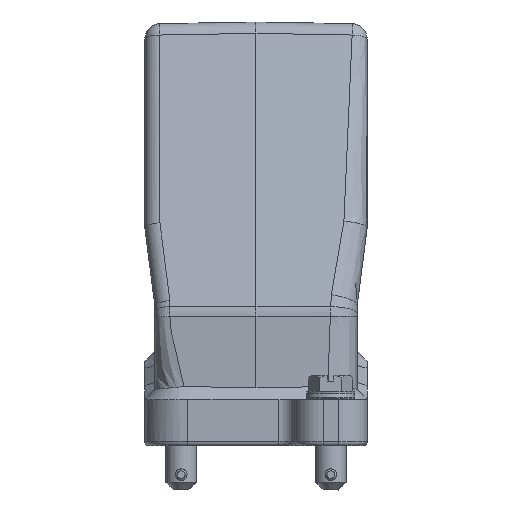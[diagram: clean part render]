
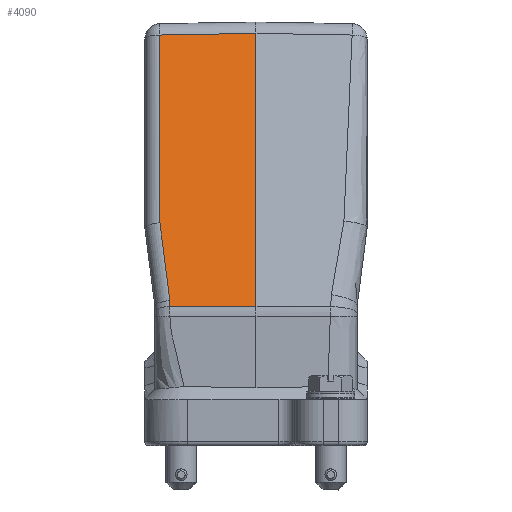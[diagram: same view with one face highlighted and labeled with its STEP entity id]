
A CAD part, left-side view. The second image highlights one B-rep face of the part: STEP entity #4090.
In plain terms, the highlighted planar face has unit normal (-0.966, 0.018, 0.259).
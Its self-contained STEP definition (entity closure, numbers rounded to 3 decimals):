
#4090=ADVANCED_FACE('',(#4860),#4614,.T.);
#4614=PLANE('',#13182);
#4860=FACE_OUTER_BOUND('',#5362,.T.);
#5362=EDGE_LOOP('',(#6348,#6349,#6350,#6351,#6352,#6353));
#6348=ORIENTED_EDGE('',*,*,#9775,.T.);
#6349=ORIENTED_EDGE('',*,*,#9776,.T.);
#6350=ORIENTED_EDGE('',*,*,#9777,.T.);
#6351=ORIENTED_EDGE('',*,*,#9756,.T.);
#6352=ORIENTED_EDGE('',*,*,#9778,.T.);
#6353=ORIENTED_EDGE('',*,*,#9779,.T.);
#8875=VERTEX_POINT('',#19435);
#8880=VERTEX_POINT('',#19465);
#8891=VERTEX_POINT('',#19516);
#8892=VERTEX_POINT('',#19517);
#8893=VERTEX_POINT('',#19519);
#8894=VERTEX_POINT('',#19522);
#9756=EDGE_CURVE('',#8875,#8880,#10885,.T.);
#9775=EDGE_CURVE('',#8891,#8892,#10898,.T.);
#9776=EDGE_CURVE('',#8892,#8893,#10899,.T.);
#9777=EDGE_CURVE('',#8893,#8875,#10900,.T.);
#9778=EDGE_CURVE('',#8880,#8894,#10901,.T.);
#9779=EDGE_CURVE('',#8894,#8891,#10902,.T.);
#10885=LINE('',#19466,#11581);
#10898=LINE('',#19515,#11594);
#10899=LINE('',#19518,#11595);
#10900=LINE('',#19520,#11596);
#10901=LINE('',#19521,#11597);
#10902=LINE('',#19523,#11598);
#11581=VECTOR('',#14335,1.);
#11594=VECTOR('',#14370,1.);
#11595=VECTOR('',#14371,1.);
#11596=VECTOR('',#14372,1.);
#11597=VECTOR('',#14373,1.);
#11598=VECTOR('',#14374,1.);
#13182=AXIS2_PLACEMENT_3D('',#19524,#14375,#14376);
#14335=DIRECTION('',(0.259,0.,0.966));
#14370=DIRECTION('',(-0.259,-0.123,-0.958));
#14371=DIRECTION('',(-0.259,0.,-0.966));
#14372=DIRECTION('',(-0.017,-1.,0.002));
#14373=DIRECTION('',(0.013,1.,-0.017));
#14374=DIRECTION('',(-0.259,0.,-0.966));
#14375=DIRECTION('',(-0.966,0.017,0.259));
#14376=DIRECTION('',(-0.259,0.,-0.966));
#19435=CARTESIAN_POINT('',(-74.659,0.,18.221));
#19465=CARTESIAN_POINT('',(-55.564,0.,89.486));
#19466=CARTESIAN_POINT('',(-54.77,0.,92.45));
#19515=CARTESIAN_POINT('',(-74.06,22.369,18.95));
#19516=CARTESIAN_POINT('',(-68.36,25.07,40.04));
#19517=CARTESIAN_POINT('',(-73.846,22.47,19.74));
#19518=CARTESIAN_POINT('',(-74.265,22.47,18.179));
#19519=CARTESIAN_POINT('',(-74.267,22.47,18.17));
#19520=CARTESIAN_POINT('',(-74.656,0.177,18.221));
#19521=CARTESIAN_POINT('',(-55.565,-0.041,89.486));
#19522=CARTESIAN_POINT('',(-55.228,25.07,89.048));
#19523=CARTESIAN_POINT('',(-68.701,25.07,38.768));
#19524=CARTESIAN_POINT('',(-54.77,0.,92.45));
